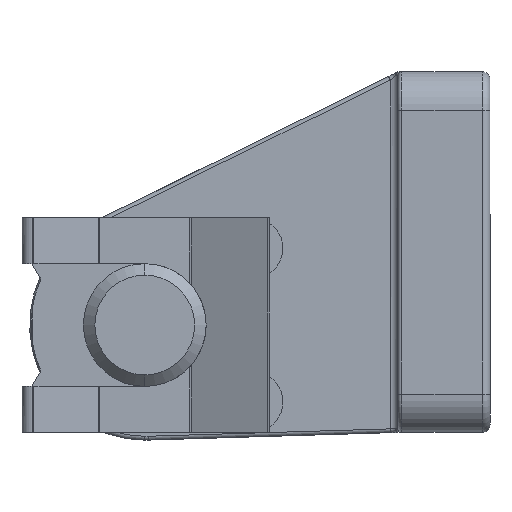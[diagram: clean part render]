
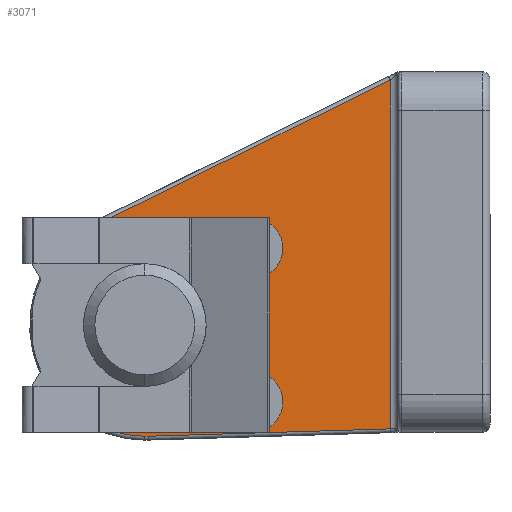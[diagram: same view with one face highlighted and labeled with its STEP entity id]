
A CAD part, left-side view. The second image highlights one B-rep face of the part: STEP entity #3071.
In plain terms, the highlighted planar face has unit normal (-1, 0, 0).
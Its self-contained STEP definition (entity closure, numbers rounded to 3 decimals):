
#1134 = EDGE_CURVE ( 'NONE', #1140, #1135, #4384, .T. ) ;
#1135 = VERTEX_POINT ( 'NONE', #4442 ) ;
#1140 = VERTEX_POINT ( 'NONE', #4434 ) ;
#2595 = EDGE_CURVE ( 'NONE', #2597, #2599, #4829, .T. ) ;
#2597 = VERTEX_POINT ( 'NONE', #4821 ) ;
#2599 = VERTEX_POINT ( 'NONE', #4820 ) ;
#2841 = EDGE_CURVE ( 'NONE', #2599, #2597, #5080, .T. ) ;
#3047 = ORIENTED_EDGE ( 'NONE', *, *, #3048, .T. ) ;
#3048 = EDGE_CURVE ( 'NONE', #3085, #1140, #5283, .T. ) ;
#3051 = ORIENTED_EDGE ( 'NONE', *, *, #1134, .T. ) ;
#3052 = ORIENTED_EDGE ( 'NONE', *, *, #3053, .T. ) ;
#3053 = EDGE_CURVE ( 'NONE', #1135, #3080, #5342, .T. ) ;
#3071 = ADVANCED_FACE ( 'NONE', ( #5314, #5313 ), #5312, .F. ) ;
#3072 = EDGE_LOOP ( 'NONE', ( #3073, #3075 ) ) ;
#3073 = ORIENTED_EDGE ( 'NONE', *, *, #2841, .T. ) ;
#3075 = ORIENTED_EDGE ( 'NONE', *, *, #2595, .T. ) ;
#3077 = EDGE_LOOP ( 'NONE', ( #3078, #3083, #3047, #3051, #3052 ) ) ;
#3078 = ORIENTED_EDGE ( 'NONE', *, *, #3079, .T. ) ;
#3079 = EDGE_CURVE ( 'NONE', #3080, #3082, #5378, .T. ) ;
#3080 = VERTEX_POINT ( 'NONE', #5370 ) ;
#3082 = VERTEX_POINT ( 'NONE', #5369 ) ;
#3083 = ORIENTED_EDGE ( 'NONE', *, *, #3084, .T. ) ;
#3084 = EDGE_CURVE ( 'NONE', #3082, #3085, #5368, .T. ) ;
#3085 = VERTEX_POINT ( 'NONE', #5364 ) ;
#4384 = CIRCLE ( 'NONE', #4446, 14.5 ) ;
#4434 = CARTESIAN_POINT ( 'NONE',  ( -55., 0., -14.5 ) ) ;
#4442 = CARTESIAN_POINT ( 'NONE',  ( -55., -0.442, -14.493 ) ) ;
#4443 = DIRECTION ( 'NONE',  ( 0., 0., -1. ) ) ;
#4444 = DIRECTION ( 'NONE',  ( -1., 0., 0. ) ) ;
#4445 = CARTESIAN_POINT ( 'NONE',  ( -55., 0., 0. ) ) ;
#4446 = AXIS2_PLACEMENT_3D ( 'NONE', #4445, #4444, #4443 ) ;
#4820 = CARTESIAN_POINT ( 'NONE',  ( -55., 0., -8. ) ) ;
#4821 = CARTESIAN_POINT ( 'NONE',  ( -55., 0., 8. ) ) ;
#4822 = DIRECTION ( 'NONE',  ( 0., 0., -1. ) ) ;
#4823 = DIRECTION ( 'NONE',  ( 1., 0., 0. ) ) ;
#4824 = CARTESIAN_POINT ( 'NONE',  ( -55., 0., 0. ) ) ;
#4825 = AXIS2_PLACEMENT_3D ( 'NONE', #4824, #4823, #4822 ) ;
#4829 = CIRCLE ( 'NONE', #4825, 8. ) ;
#5076 = DIRECTION ( 'NONE',  ( 0., 0., -1. ) ) ;
#5077 = DIRECTION ( 'NONE',  ( 1., 0., 0. ) ) ;
#5078 = CARTESIAN_POINT ( 'NONE',  ( -55., 0., 0. ) ) ;
#5079 = AXIS2_PLACEMENT_3D ( 'NONE', #5078, #5077, #5076 ) ;
#5080 = CIRCLE ( 'NONE', #5079, 8. ) ;
#5282 = AXIS2_PLACEMENT_3D ( 'NONE', #5345, #5344, #5343 ) ;
#5283 = CIRCLE ( 'NONE', #5282, 14.5 ) ;
#5312 = PLANE ( 'NONE',  #5377 ) ;
#5313 = FACE_OUTER_BOUND ( 'NONE', #3077, .T. ) ;
#5314 = FACE_BOUND ( 'NONE', #3072, .T. ) ;
#5339 = DIRECTION ( 'NONE',  ( 0., -1., 0.031 ) ) ;
#5340 = VECTOR ( 'NONE', #5339, 1000. ) ;
#5341 = CARTESIAN_POINT ( 'NONE',  ( -55., -31.985, -13.531 ) ) ;
#5342 = LINE ( 'NONE', #5341, #5340 ) ;
#5343 = DIRECTION ( 'NONE',  ( 0., 0., -1. ) ) ;
#5344 = DIRECTION ( 'NONE',  ( -1., 0., 0. ) ) ;
#5345 = CARTESIAN_POINT ( 'NONE',  ( -55., 0., 0. ) ) ;
#5364 = CARTESIAN_POINT ( 'NONE',  ( -55., 6.414, 13.004 ) ) ;
#5365 = DIRECTION ( 'NONE',  ( 0., 0.897, -0.442 ) ) ;
#5366 = VECTOR ( 'NONE', #5365, 1000. ) ;
#5367 = CARTESIAN_POINT ( 'NONE',  ( -55., 6.414, 13.004 ) ) ;
#5368 = LINE ( 'NONE', #5367, #5366 ) ;
#5369 = CARTESIAN_POINT ( 'NONE',  ( -55., -32., 31.949 ) ) ;
#5370 = CARTESIAN_POINT ( 'NONE',  ( -55., -32., -13.53 ) ) ;
#5371 = DIRECTION ( 'NONE',  ( 0., 0., 1. ) ) ;
#5372 = VECTOR ( 'NONE', #5371, 1000. ) ;
#5373 = CARTESIAN_POINT ( 'NONE',  ( -55., -32., 33. ) ) ;
#5374 = DIRECTION ( 'NONE',  ( 0., 0., -1. ) ) ;
#5375 = DIRECTION ( 'NONE',  ( 1., 0., 0. ) ) ;
#5376 = CARTESIAN_POINT ( 'NONE',  ( -55., 15., 33.001 ) ) ;
#5377 = AXIS2_PLACEMENT_3D ( 'NONE', #5376, #5375, #5374 ) ;
#5378 = LINE ( 'NONE', #5373, #5372 ) ;
